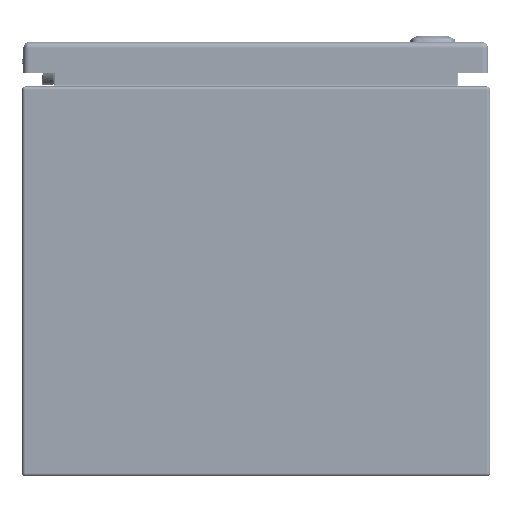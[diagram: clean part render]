
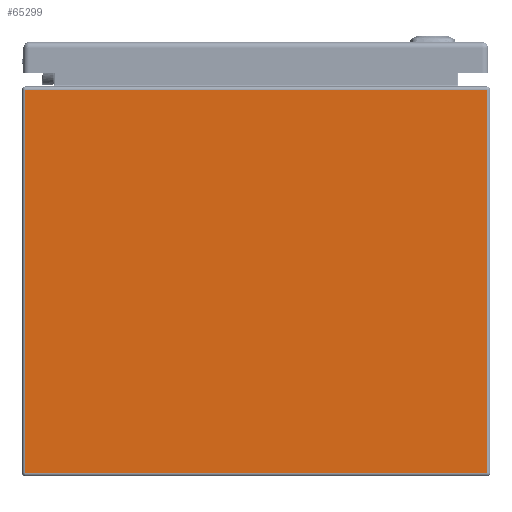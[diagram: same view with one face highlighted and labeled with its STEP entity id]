
A CAD part, front view. The second image highlights one B-rep face of the part: STEP entity #65299.
In plain terms, the highlighted planar face has unit normal (0, -1, 0).
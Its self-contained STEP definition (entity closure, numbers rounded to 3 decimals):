
#6338=LINE('',#91460,#10375);
#6345=LINE('',#91475,#10382);
#6347=LINE('',#91482,#10384);
#6349=LINE('',#91491,#10386);
#10375=VECTOR('',#76016,0.394);
#10382=VECTOR('',#76029,0.394);
#10384=VECTOR('',#76037,0.394);
#10386=VECTOR('',#76049,0.394);
#15455=FACE_OUTER_BOUND('',#19465,.T.);
#19465=EDGE_LOOP('',(#43446,#43447,#43448,#43449));
#26170=VERTEX_POINT('',#91430);
#26177=VERTEX_POINT('',#91456);
#26182=VERTEX_POINT('',#91474);
#26184=VERTEX_POINT('',#91480);
#32855=EDGE_CURVE('',#26170,#26177,#6338,.T.);
#32862=EDGE_CURVE('',#26177,#26182,#6345,.T.);
#32866=EDGE_CURVE('',#26184,#26170,#6347,.T.);
#32871=EDGE_CURVE('',#26184,#26182,#6349,.T.);
#43446=ORIENTED_EDGE('',*,*,#32855,.F.);
#43447=ORIENTED_EDGE('',*,*,#32866,.F.);
#43448=ORIENTED_EDGE('',*,*,#32871,.T.);
#43449=ORIENTED_EDGE('',*,*,#32862,.F.);
#63901=PLANE('',#70189);
#65299=ADVANCED_FACE('',(#15455),#63901,.F.);
#70189=AXIS2_PLACEMENT_3D('',#91502,#76063,#76064);
#76016=DIRECTION('',(1.,0.,0.));
#76029=DIRECTION('',(0.,0.,-1.));
#76037=DIRECTION('',(0.,0.,1.));
#76049=DIRECTION('',(1.,0.,0.));
#76063=DIRECTION('center_axis',(0.,1.,0.));
#76064=DIRECTION('ref_axis',(0.,0.,1.));
#91430=CARTESIAN_POINT('',(-5.916,-12.,9.916));
#91456=CARTESIAN_POINT('',(5.916,-12.,9.916));
#91460=CARTESIAN_POINT('',(2.979,-12.,9.916));
#91474=CARTESIAN_POINT('',(5.916,-12.,0.084));
#91475=CARTESIAN_POINT('',(5.916,-12.,5.));
#91480=CARTESIAN_POINT('',(-5.916,-12.,0.084));
#91482=CARTESIAN_POINT('',(-5.916,-12.,5.));
#91491=CARTESIAN_POINT('',(-2.958,-12.,0.084));
#91502=CARTESIAN_POINT('Origin',(0.,-12.,5.));
